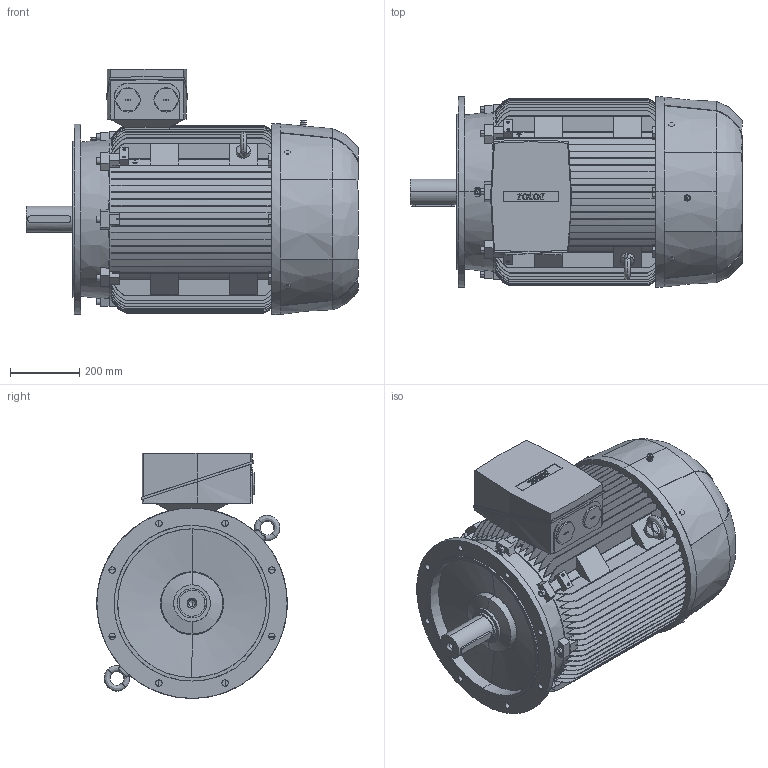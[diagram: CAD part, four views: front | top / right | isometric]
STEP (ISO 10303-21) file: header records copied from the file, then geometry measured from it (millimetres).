
FILE_DESCRIPTION (( 'STEP AP203' ), '1' );
FILE_NAME ('6RN280M06E26 IM3041.STEP', '2017-01-04T07:15:36', ( 'rotor' ), ( 'Hewlett-Packard Company' ), 'SwSTEP 2.0', 'SolidWorks 2015', '' );
FILE_SCHEMA (( 'CONFIG_CONTROL_DESIGN' ));
Length unit declared in the file: millimetre
Products named in the file (1): 6RN280M06E26 IM3041
Bounding box: 960 x 551 x 708.5 mm (x, y, z)
Volume: 162674262.2 mm3; surface area: 4677636.9 mm2
Topology: 4 solids, 4 shells, 1163 faces, 3307 edges, 2205 vertices
Faces by surface type: plane 697, cylinder 226, bspline 217, cone 23
Entity records: 54118 total; most frequent: CARTESIAN_POINT 26048, ORIENTED_EDGE 6602, DIRECTION 4697, EDGE_CURVE 3301, VERTEX_POINT 2205, LINE 1829, VECTOR 1829, AXIS2_PLACEMENT_3D 1434
